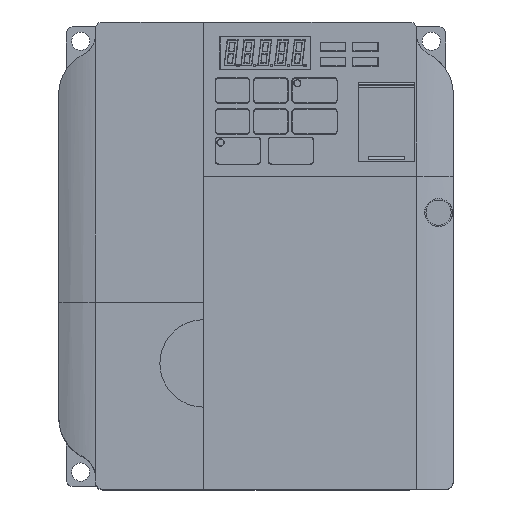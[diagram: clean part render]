
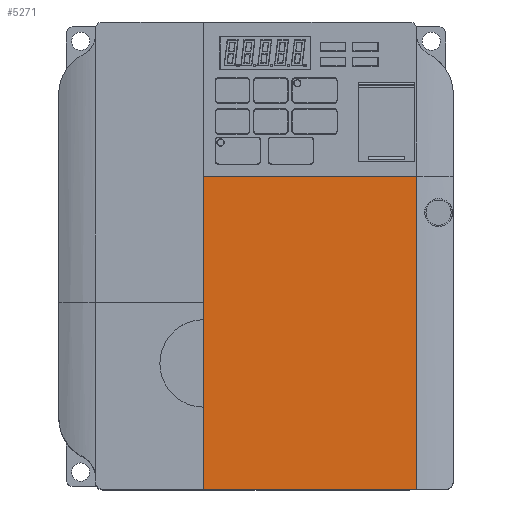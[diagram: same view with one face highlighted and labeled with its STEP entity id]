
A CAD part, top view. The second image highlights one B-rep face of the part: STEP entity #5271.
In plain terms, the highlighted planar face has unit normal (0, 0, 1).
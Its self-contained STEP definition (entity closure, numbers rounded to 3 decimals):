
#4761=DIRECTION('',(0.,-1.,0.));
#4762=VECTOR('',#4761,85.8);
#4763=CARTESIAN_POINT('',(-6.,10.,7.919));
#4764=LINE('',#4763,#4762);
#4845=DIRECTION('',(-1.,0.,0.));
#4846=VECTOR('',#4845,58.35);
#4847=CARTESIAN_POINT('',(-6.,-75.8,7.919));
#4848=LINE('',#4847,#4846);
#4854=DIRECTION('',(0.,1.,0.));
#4855=VECTOR('',#4854,85.8);
#4856=CARTESIAN_POINT('',(-64.35,-75.8,7.919));
#4857=LINE('',#4856,#4855);
#4871=DIRECTION('',(1.,0.,0.));
#4872=VECTOR('',#4871,58.35);
#4873=CARTESIAN_POINT('',(-64.35,10.,7.919));
#4874=LINE('',#4873,#4872);
#5032=CARTESIAN_POINT('',(-6.,10.,7.919));
#5034=VERTEX_POINT('',#5032);
#5040=CARTESIAN_POINT('',(-6.,-75.8,7.919));
#5041=CARTESIAN_POINT('',(-64.35,-75.8,7.919));
#5042=VERTEX_POINT('',#5040);
#5043=VERTEX_POINT('',#5041);
#5044=CARTESIAN_POINT('',(-64.35,10.,7.919));
#5045=VERTEX_POINT('',#5044);
#5260=CARTESIAN_POINT('',(-30.272,-32.779,7.919));
#5261=DIRECTION('',(0.,0.,1.));
#5262=DIRECTION('',(1.,0.,0.));
#5263=AXIS2_PLACEMENT_3D('',#5260,#5261,#5262);
#5264=PLANE('',#5263);
#5265=ORIENTED_EDGE('',*,*,#5240,.T.);
#5266=ORIENTED_EDGE('',*,*,#5255,.T.);
#5267=ORIENTED_EDGE('',*,*,#5141,.T.);
#5268=ORIENTED_EDGE('',*,*,#5225,.T.);
#5269=EDGE_LOOP('',(#5265,#5266,#5267,#5268));
#5270=FACE_OUTER_BOUND('',#5269,.F.);
#5271=ADVANCED_FACE('',(#5270),#5264,.T.);
#5141=EDGE_CURVE('',#5034,#5042,#4764,.T.);
#5225=EDGE_CURVE('',#5042,#5043,#4848,.T.);
#5240=EDGE_CURVE('',#5043,#5045,#4857,.T.);
#5255=EDGE_CURVE('',#5045,#5034,#4874,.T.);
